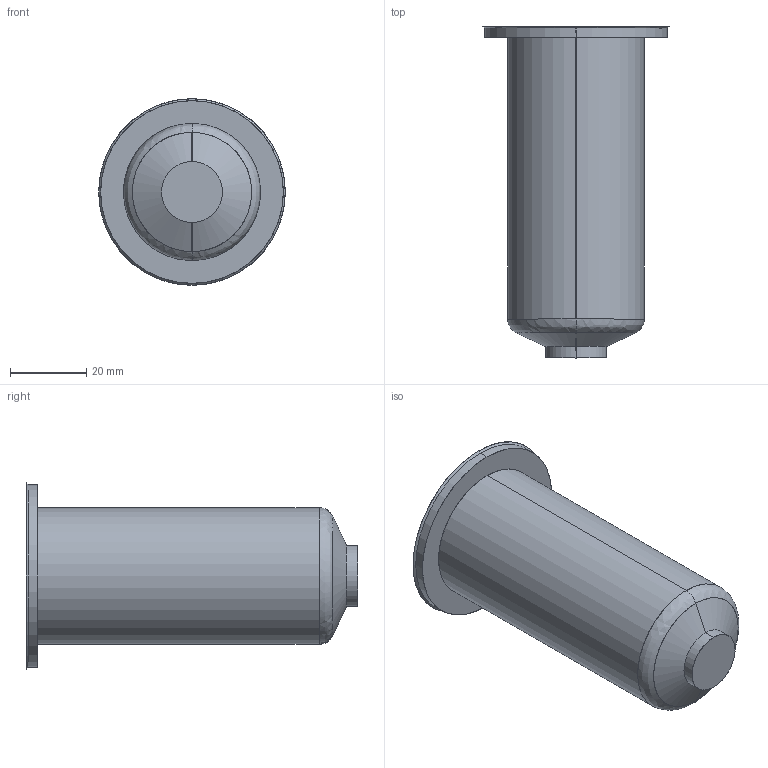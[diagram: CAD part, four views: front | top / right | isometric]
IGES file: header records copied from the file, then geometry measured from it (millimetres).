
Start section: SolidWorks IGES file using analytic representation for surfaces
Global section: file name: C:\Documents and Settings\ws-20\Desktop\TEMPORANEA\Sede UGBE5002-M-A C-84 L-104 P-0.IGS; native system: SolidWorks 2012; preprocessor: SolidWorks 2012; author: ws-20; date: 120307.090642; units: millimetre
Bounding box: 49 x 87.21 x 49 mm (x, y, z)
Surface area: 13004.9 mm2 (no closed solid volume)
Topology: 0 solids, 0 shells, 15 faces, 272 edges, 272 vertices
Faces by surface type: revolution 10, bspline 5
